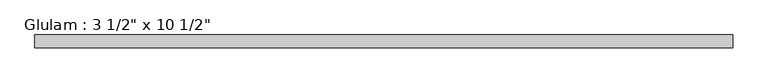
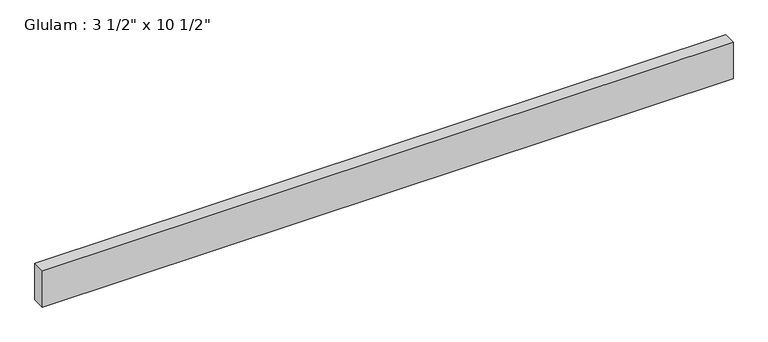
"""IFC4 building model written with IfcOpenShell, lengths in millimetres: beam geometry."""

from ifc_helpers import new_model, si_unit, frame, origin, place, context, project, spatial, polyline, outline, extrude, source, transform, mapped, element, save


def beam_14328633(model_context):
    return source(origin(), model_context, "Body", "SweptSolid", [
        extrude(outline(polyline([(2318.6274034, 44.45), (2318.6274034, -44.45), (-2451.796714, -44.45), (-2451.796714, 44.45), (2318.6274034, 44.45)])), frame((0.0, 0.0, -133.35), z_axis=(0.0, 0.0, 1.0), x_axis=(1.0, 0.0, 0.0)), (0.0, 0.0, 1.0), 266.7),
    ])


if __name__ == "__main__":
    model = new_model("IFC4")
    model_context = context("Model", 3, world=origin())
    ifc_project = project(units=[si_unit("LENGTHUNIT", "METRE", prefix="MILLI")], contexts=[model_context])
    site = spatial("IfcSite", under=ifc_project)
    building = spatial("IfcBuilding", under=site)
    placement = place(None, origin())
    beam_shape = beam_14328633(model_context)
    element("IfcBeam", 1, ObjectType="Glulam : 3 1/2\" x 10 1/2\"", at=placement, inside=building, context=model_context, shape_type="MappedRepresentation", body=[
        mapped(beam_shape, transform((0.0, 0.0, 0.0), x_axis=(1.0, 0.0, 0.0), y_axis=(0.0, 1.0, 0.0), z_axis=(0.0, 0.0, 1.0))),
    ])
    save(model, "model.ifc")
